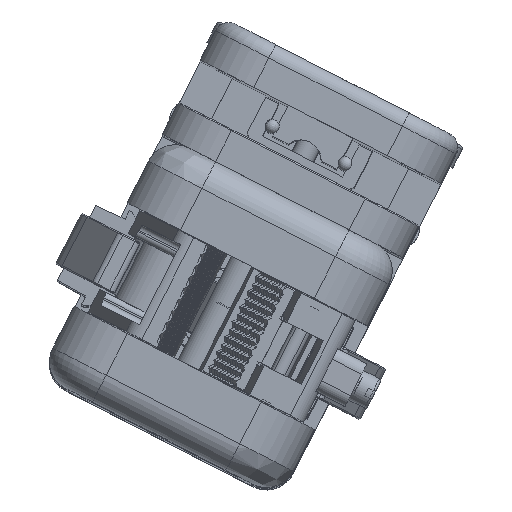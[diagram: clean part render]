
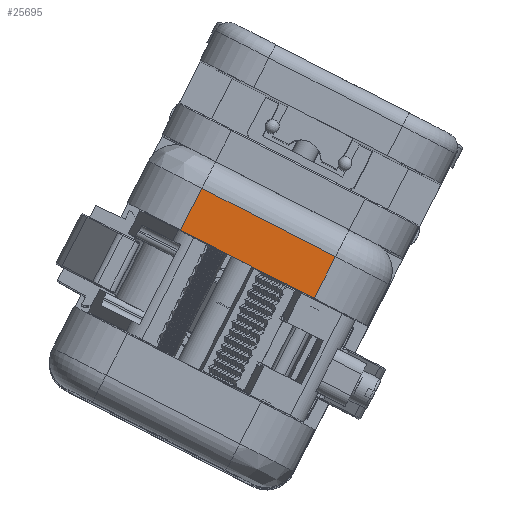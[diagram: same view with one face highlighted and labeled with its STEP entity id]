
A CAD part, top view. The second image highlights one B-rep face of the part: STEP entity #25695.
In plain terms, the highlighted planar face has unit normal (0, 0, 1).
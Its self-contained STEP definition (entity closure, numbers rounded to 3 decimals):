
#25695=ADVANCED_FACE('',(#30464),#28093,.F.);
#28093=PLANE('',#68400);
#30464=FACE_OUTER_BOUND('',#33644,.T.);
#33644=EDGE_LOOP('',(#53120,#53121,#53122,#53123));
#38192=LINE('',#95493,#42453);
#38201=LINE('',#95532,#42462);
#38203=LINE('',#95535,#42464);
#38204=LINE('',#95537,#42465);
#42453=VECTOR('',#80410,1.);
#42462=VECTOR('',#80453,1.);
#42464=VECTOR('',#80457,1.);
#42465=VECTOR('',#80458,1.);
#53120=ORIENTED_EDGE('',*,*,#62957,.F.);
#53121=ORIENTED_EDGE('',*,*,#62935,.T.);
#53122=ORIENTED_EDGE('',*,*,#62955,.F.);
#53123=ORIENTED_EDGE('',*,*,#62958,.F.);
#57291=VERTEX_POINT('',#95492);
#57292=VERTEX_POINT('',#95494);
#57303=VERTEX_POINT('',#95530);
#57305=VERTEX_POINT('',#95536);
#62935=EDGE_CURVE('',#57292,#57291,#38192,.T.);
#62955=EDGE_CURVE('',#57303,#57291,#38201,.T.);
#62957=EDGE_CURVE('',#57292,#57305,#38203,.T.);
#62958=EDGE_CURVE('',#57305,#57303,#38204,.T.);
#68400=AXIS2_PLACEMENT_3D('',#95538,#80459,#80460);
#80410=DIRECTION('',(0.89,-0.456,0.));
#80453=DIRECTION('',(-0.456,-0.89,0.));
#80457=DIRECTION('',(0.456,0.89,0.));
#80458=DIRECTION('',(0.89,-0.456,0.));
#80459=DIRECTION('',(0.,0.,-1.));
#80460=DIRECTION('',(0.89,-0.456,0.));
#95492=CARTESIAN_POINT('',(15.547,2.936,349.));
#95493=CARTESIAN_POINT('',(4.421,8.634,349.));
#95494=CARTESIAN_POINT('',(-6.704,14.331,349.));
#95530=CARTESIAN_POINT('',(19.103,9.878,349.));
#95532=CARTESIAN_POINT('',(21.382,14.329,349.));
#95535=CARTESIAN_POINT('',(-0.87,25.724,349.));
#95536=CARTESIAN_POINT('',(-3.149,21.274,349.));
#95537=CARTESIAN_POINT('',(7.977,15.576,349.));
#95538=CARTESIAN_POINT('',(30.283,9.771,349.));
